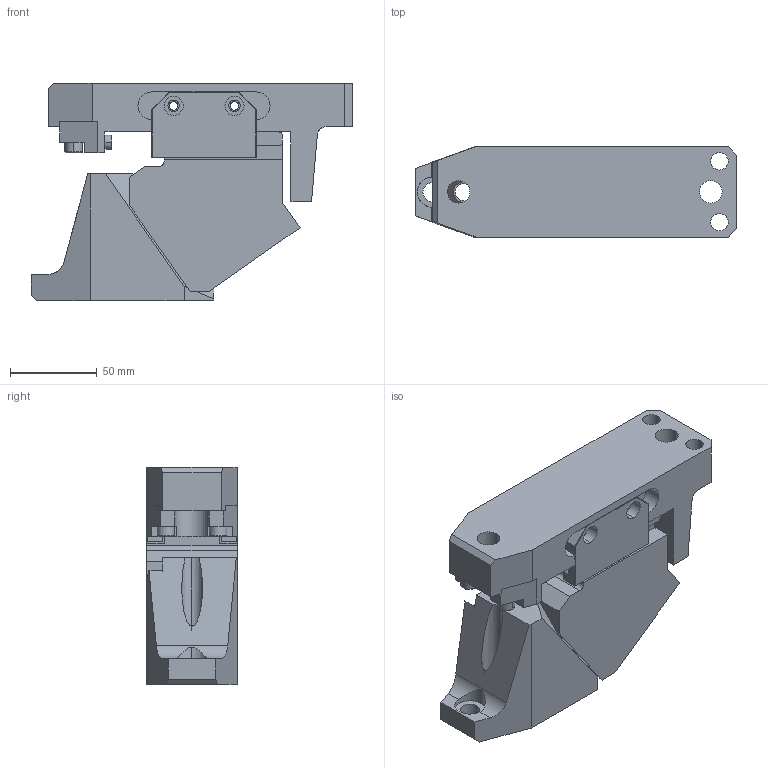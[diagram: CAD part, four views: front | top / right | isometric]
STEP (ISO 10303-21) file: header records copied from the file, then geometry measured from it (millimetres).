
FILE_DESCRIPTION (( 'STEP AP203' ), '1' );
FILE_NAME ('CLD052.55.step', '2014-05-05T08:34:46', ( '' ), ( '' ), 'SwSTEP 2.0', 'SolidWorks 2013', '' );
FILE_SCHEMA (( 'CONFIG_CONTROL_DESIGN' ));
Length unit declared in the file: millimetre
Products named in the file (4): CLD05255-01 CAM BASE; CLD05255-02 CAM SLIDER; CLD05255-03 CAM DRIVER; CLD052.55
Assembly tree (3 placements, depth 2):
  CLD052.55
    CLD05255-01 CAM BASE
    CLD05255-02 CAM SLIDER
    CLD05255-03 CAM DRIVER
Bounding box: 185 x 52 x 125 mm (x, y, z)
Volume: 691348.4 mm3; surface area: 117472.2 mm2
Topology: 3 solids, 7 shells, 362 faces, 937 edges, 595 vertices
Faces by surface type: plane 224, cylinder 111, cone 18, torus 9
Entity records: 11448 total; most frequent: CARTESIAN_POINT 2057, DIRECTION 1901, ORIENTED_EDGE 1854, EDGE_CURVE 927, AXIS2_PLACEMENT_3D 637, LINE 627, VECTOR 627, VERTEX_POINT 595
